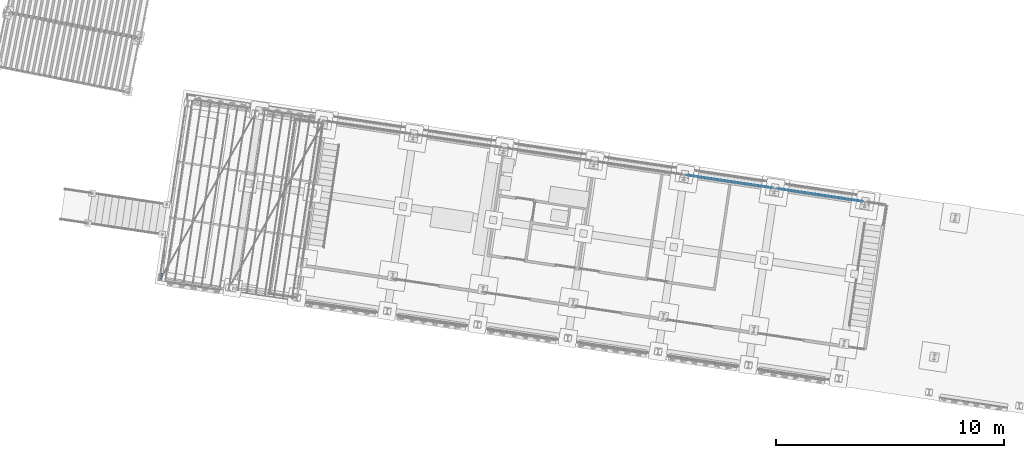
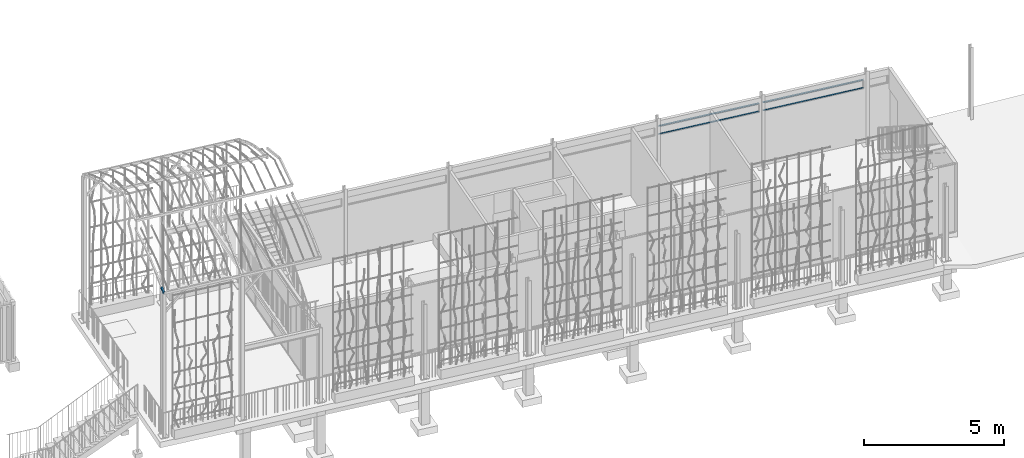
# One storey, part 104 of 142: 5 members, 1 element without a shape of its own.
"""IFC4 building model written with IfcOpenShell, lengths in metres."""

import ifcopenshell
import ifcopenshell.guid

model = None  # the IFC model being written
_history = None  # IfcOwnerHistory: only IFC2X3 demands one
_inside = {}  # id of a spatial element -> (the spatial element, [elements in it])
_under = {}  # id of a project, library or spatial element -> (it, [spatial elements below it])
_declared = {}  # id of a project -> (the project, [libraries it declares])
_typed = {}  # id of a type object -> (the type object, [elements of that type])
_made_of = {}  # id of a material, layer set ... -> (it, [elements and type objects made of it])


def new_model(schema):
    """Start an empty IFC model of exactly this schema.

    Asked for "IFC4X3", IfcOpenShell would pick the latest addendum, in which some entities
    have other attributes; the version numbers below select the first issue.
    IFC2X3 requires an IfcOwnerHistory on every rooted entity: one is made here for all.
    """
    global model, _history
    if schema == "IFC4X3":
        model = ifcopenshell.file(schema_version=(4, 3, 0, 0))
    else:
        model = ifcopenshell.file(schema=schema)
    _inside.clear()
    _under.clear()
    _declared.clear()
    _typed.clear()
    _made_of.clear()
    _history = None
    if model.schema == "IFC2X3":
        org = make("IfcOrganization", Name="unknown")
        user = make(
            "IfcPersonAndOrganization",
            ThePerson=make("IfcPerson", FamilyName="unknown"),
            TheOrganization=org,
        )
        app = make(
            "IfcApplication",
            ApplicationDeveloper=org,
            Version="unknown",
            ApplicationFullName="unknown",
            ApplicationIdentifier="unknown",
        )
        _history = make(
            "IfcOwnerHistory",
            OwningUser=user,
            OwningApplication=app,
            ChangeAction="ADDED",
            CreationDate=0,
        )
    return model


def make(cls, **values):
    """One entity of the class cls with the attributes given. An attribute that is None is left unset."""
    return model.create_entity(
        cls, **{name: value for name, value in values.items() if value is not None}
    )


def rooted(cls, **values):
    """An entity with a GlobalId (a new one), such as an element, a storey or a relation."""
    return make(cls, GlobalId=ifcopenshell.guid.new(), OwnerHistory=_history, **values)


def si_unit(unit_type, name, prefix=None):
    """IfcSIUnit, for example si_unit("LENGTHUNIT", "METRE", prefix="MILLI")."""
    return make("IfcSIUnit", UnitType=unit_type, Prefix=prefix, Name=name)


def assignment(units):
    """IfcUnitAssignment: the units of a project."""
    return None if units is None else make("IfcUnitAssignment", Units=units)


def point(xyz):
    """IfcCartesianPoint."""
    return None if xyz is None else make("IfcCartesianPoint", Coordinates=xyz)


def direction(xyz):
    """IfcDirection."""
    return None if xyz is None else make("IfcDirection", DirectionRatios=xyz)


def frame(location, z_axis=None, x_axis=None):
    """IfcAxis2Placement3D, a coordinate frame: its origin and axes. An axis left out is left unset."""
    return make(
        "IfcAxis2Placement3D",
        Location=point(location),
        Axis=direction(z_axis),
        RefDirection=direction(x_axis),
    )


def origin_with_axes():
    """The frame at (0, 0, 0) with the z axis (0, 0, 1) and the x axis (1, 0, 0) written out."""
    return frame((0.0, 0.0, 0.0), z_axis=(0.0, 0.0, 1.0), x_axis=(1.0, 0.0, 0.0))


def place(relative_to, where):
    """IfcLocalPlacement: puts the frame where relative to a parent placement (None: the world)."""
    return make(
        "IfcLocalPlacement", PlacementRelTo=relative_to, RelativePlacement=where
    )


def context(
    kind, dimensions, precision=None, world=None, true_north=None, identifier=None
):
    """IfcGeometricRepresentationContext, for example the 3D "Model" context."""
    return make(
        "IfcGeometricRepresentationContext",
        ContextIdentifier=identifier,
        ContextType=kind,
        CoordinateSpaceDimension=dimensions,
        Precision=precision,
        WorldCoordinateSystem=world,
        TrueNorth=true_north,
    )


def subcontext(parent, identifier, kind, view, scale=None):
    """IfcGeometricRepresentationSubContext, for example "Body" below "Model"."""
    return make(
        "IfcGeometricRepresentationSubContext",
        ContextIdentifier=identifier,
        ContextType=kind,
        ParentContext=parent,
        TargetScale=scale,
        TargetView=view,
    )


def project(units=None, contexts=None):
    """IfcProject with its units and contexts."""
    return rooted(
        "IfcProject",
        Name="project",
        RepresentationContexts=contexts,
        UnitsInContext=assignment(units),
    )


def spatial(cls, under=None, at=None, **own):
    """A site, building, storey or space (cls), placed at a placement, below another one or the project."""
    s = rooted(cls, ObjectPlacement=at, **own)
    if under is not None:
        _under.setdefault(under.id(), (under, []))[1].append(s)
    return s


def profile(cls, at=None, kind="AREA", **sizes):
    """A parametric profile (cls). Its sizes go by their IFC names, for example OverallWidth=200.0."""
    return make(cls, ProfileType=kind, Position=at, **sizes)


def rectangle(**sizes):
    """IfcRectangleProfileDef."""
    return profile("IfcRectangleProfileDef", **sizes)


def hollow_rectangle(**sizes):
    """IfcRectangleHollowProfileDef."""
    return profile("IfcRectangleHollowProfileDef", **sizes)


def extrude(swept, where, along, depth):
    """IfcExtrudedAreaSolid: the profile swept, set in the frame where, extruded along a direction by depth."""
    return make(
        "IfcExtrudedAreaSolid",
        SweptArea=swept,
        Position=where,
        ExtrudedDirection=direction(along),
        Depth=depth,
    )


def shape(context_of_items, identifier, shape_type, items):
    """IfcShapeRepresentation: the items that make up one representation, for example the "Body"."""
    return make(
        "IfcShapeRepresentation",
        ContextOfItems=context_of_items,
        RepresentationIdentifier=identifier,
        RepresentationType=shape_type,
        Items=items,
    )


def material(Name=None, Category=None):
    """IfcMaterial."""
    return make("IfcMaterial", Name=Name, Category=Category)


def material_profile(
    of_material, cross_section, Name=None, Category=None, Priority=None
):
    """IfcMaterialProfile: a cross section and its material."""
    return make(
        "IfcMaterialProfile",
        Name=Name,
        Material=of_material,
        Profile=cross_section,
        Priority=Priority,
        Category=Category,
    )


def profile_set(profiles, Name=None, composite=None):
    """IfcMaterialProfileSet."""
    return make(
        "IfcMaterialProfileSet",
        Name=Name,
        MaterialProfiles=profiles,
        CompositeProfile=composite,
    )


def profile_usage(for_profile_set, cardinal=None, extent=None):
    """IfcMaterialProfileSetUsage: how a profile set lies along its element."""
    return make(
        "IfcMaterialProfileSetUsage",
        ForProfileSet=for_profile_set,
        CardinalPoint=cardinal,
        ReferenceExtent=extent,
    )


def made_of(thing, what):
    """Note that an element or type object is made of a material, layer set ...; save() writes the relation."""
    if what is not None:
        _made_of.setdefault(what.id(), (what, []))[1].append(thing)
    return thing


def type_object(cls, material=None, **own):
    """A type object (cls), such as IfcWallType, which elements share."""
    return made_of(rooted(cls, **own), material)


def element(
    cls,
    number,
    at=None,
    inside=None,
    cuts=None,
    type_object=None,
    material=None,
    context=None,
    identifier="Body",
    shape_type=None,
    held_by="IfcProductDefinitionShape",
    body=None,
    shapes=None,
    **own,
):
    """One element of the class cls, such as IfcWall. Its Tag is "e" and its number.

    at: its placement. inside: the storey or other place that contains it. cuts: it is an
    opening in that element (IfcRelVoidsElement). A single representation is given by context,
    identifier, shape_type and body (its items); several are given by shapes. held_by: the class
    of the entity that holds the representations. save() writes the other relations.
    """
    e = rooted(cls, Tag="e%d" % number, ObjectPlacement=at, **own)
    if body is not None:
        shapes = [shape(context, identifier, shape_type, body)]
    if shapes is not None:
        e.Representation = make(held_by, Representations=shapes)
    if inside is not None:
        _inside.setdefault(inside.id(), (inside, []))[1].append(e)
    if cuts is not None:
        rooted(
            "IfcRelVoidsElement", RelatingBuildingElement=cuts, RelatedOpeningElement=e
        )
    if type_object is not None:
        _typed.setdefault(type_object.id(), (type_object, []))[1].append(e)
    return made_of(e, material)


def aggregate(whole, parts):
    """IfcRelAggregates: a whole, such as a stair, and the parts it consists of."""
    return rooted("IfcRelAggregates", RelatingObject=whole, RelatedObjects=parts)


def save(model, path):
    """Write the relations noted so far, then the file.

    IfcRelAggregates (storeys below a building ...), IfcRelContainedInSpatialStructure (elements
    in a storey), IfcRelDefinesByType, IfcRelAssociatesMaterial and IfcRelDeclares: one each for
    every whole, place, type object, material and project.
    """
    for whole, parts in _under.values():
        aggregate(whole, parts)
    for where, things in _inside.values():
        rooted(
            "IfcRelContainedInSpatialStructure",
            RelatedElements=things,
            RelatingStructure=where,
        )
    for kind, things in _typed.values():
        rooted("IfcRelDefinesByType", RelatedObjects=things, RelatingType=kind)
    for what, things in _made_of.values():
        rooted("IfcRelAssociatesMaterial", RelatedObjects=things, RelatingMaterial=what)
    for by, libraries in _declared.values():
        rooted("IfcRelDeclares", RelatingContext=by, RelatedDefinitions=libraries)
    model.write(path)


model = new_model("IFC4")

# Units and contexts
model_context = context("Model", 3, precision=1e-05, world=origin_with_axes(), true_north=direction((0.0, 1.0)))
body_context = subcontext(model_context, "Body", "Model", "MODEL_VIEW")
ifc_project = project(units=[si_unit("LENGTHUNIT", "METRE"), si_unit("AREAUNIT", "SQUARE_METRE"), si_unit("VOLUMEUNIT", "CUBIC_METRE")], contexts=[model_context])

# Site, building, storey
site_placement = place(None, origin_with_axes())
site = spatial("IfcSite", under=ifc_project, at=site_placement, Name="Lares · Rua das Mercês · artigo 4771")
building_placement = place(site_placement, frame((15.0, 9.7, 14.65), z_axis=(0.0, 0.0, 1.0), x_axis=(0.989015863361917, -0.147809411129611, 0.0)))
building = spatial("IfcBuilding", under=site, at=building_placement, Name="Casa Sobreposta")
storey_placement = place(building_placement, origin_with_axes())
storey = spatial("IfcBuildingStorey", under=building, at=storey_placement, Name="00 · Habitação e estacionamento", Elevation=14.65)

# Members
ifc_material = material(Name="Aço pintado / Stahl lackiert", Category="steel")
ifc_material_profile_1 = material_profile(ifc_material, rectangle(XDim=0.035, YDim=0.035))
ifc_profile_set_1 = profile_set([ifc_material_profile_1], Name="R0.035")
ifc_profile_usage_1 = profile_usage(ifc_profile_set_1)
member_type_1 = type_object("IfcMemberType", Name="R0.035 / steel", PredefinedType="NOTDEFINED", material=ifc_profile_set_1)
member_1_placement = place(storey_placement, frame((16.08, 6.4, 2.35), z_axis=(1.0, 0.0, 0.0), x_axis=(0.0, -1.0, 0.0)))
element("IfcMember", 1, at=member_1_placement, inside=storey, type_object=member_type_1, material=ifc_profile_usage_1, Name="Rasgo norte 5 · travessa", context=body_context, shape_type="SweptSolid", body=[
    extrude(rectangle(XDim=0.035, YDim=0.035), origin_with_axes(), (0.0, 0.0, 1.0), 3.84),
])
ifc_profile_usage_2 = profile_usage(ifc_profile_set_1)
member_2_placement = place(storey_placement, frame((16.08, 6.4, 2.7), z_axis=(1.0, 0.0, 0.0), x_axis=(0.0, -1.0, 0.0)))
element("IfcMember", 2, at=member_2_placement, inside=storey, type_object=member_type_1, material=ifc_profile_usage_2, Name="Rasgo norte 5 · travessa", context=body_context, shape_type="SweptSolid", body=[
    extrude(rectangle(XDim=0.035, YDim=0.035), origin_with_axes(), (0.0, 0.0, 1.0), 3.84),
])
ifc_profile_usage_3 = profile_usage(ifc_profile_set_1)
member_3_placement = place(storey_placement, frame((20.08, 6.4, 2.35), z_axis=(1.0, 0.0, 0.0), x_axis=(0.0, -1.0, 0.0)))
element("IfcMember", 3, at=member_3_placement, inside=storey, type_object=member_type_1, material=ifc_profile_usage_3, Name="Rasgo norte 6 · travessa", context=body_context, shape_type="SweptSolid", body=[
    extrude(rectangle(XDim=0.035, YDim=0.035), origin_with_axes(), (0.0, 0.0, 1.0), 3.84),
])
ifc_profile_usage_4 = profile_usage(ifc_profile_set_1)
member_4_placement = place(storey_placement, frame((20.08, 6.4, 2.7), z_axis=(1.0, 0.0, 0.0), x_axis=(0.0, -1.0, 0.0)))
element("IfcMember", 4, at=member_4_placement, inside=storey, type_object=member_type_1, material=ifc_profile_usage_4, Name="Rasgo norte 6 · travessa", context=body_context, shape_type="SweptSolid", body=[
    extrude(rectangle(XDim=0.035, YDim=0.035), origin_with_axes(), (0.0, 0.0, 1.0), 3.84),
])

# Assembly, member
assembly_placement = place(storey_placement, origin_with_axes())
assembly = element("IfcElementAssembly", 5, at=assembly_placement, inside=storey, Name="Pérgola · prolongamento da estufa 6 m", ObjectType="PERGOLA_GREENHOUSE_EXTENSION", PredefinedType="USERDEFINED")
ifc_material_profile_2 = material_profile(ifc_material, hollow_rectangle(XDim=0.06, YDim=0.1, WallThickness=0.004))
ifc_profile_set_2 = profile_set([ifc_material_profile_2], Name="RHS100x60x4")
ifc_profile_usage_5 = profile_usage(ifc_profile_set_2)
member_type_2 = type_object("IfcMemberType", Name="RHS100x60x4 / steel", PredefinedType="NOTDEFINED", material=ifc_profile_set_2)
member_5_placement = place(assembly_placement, frame((-6.0, -1.5, 6.23430000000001), z_axis=(0.0, 0.932991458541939, 0.35989851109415), x_axis=(1.0, 0.0, 0.0)))
member_5 = element("IfcMember", 6, at=member_5_placement, type_object=member_type_2, material=ifc_profile_usage_5, Name="Pérgola · arco contínuo com a estufa", context=body_context, shape_type="SweptSolid", body=[
    extrude(hollow_rectangle(XDim=0.06, YDim=0.1, WallThickness=0.004), origin_with_axes(), (0.0, 0.0, 1.0), 0.249032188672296),
])
aggregate(assembly, [member_5])

save(model, "model.ifc")
